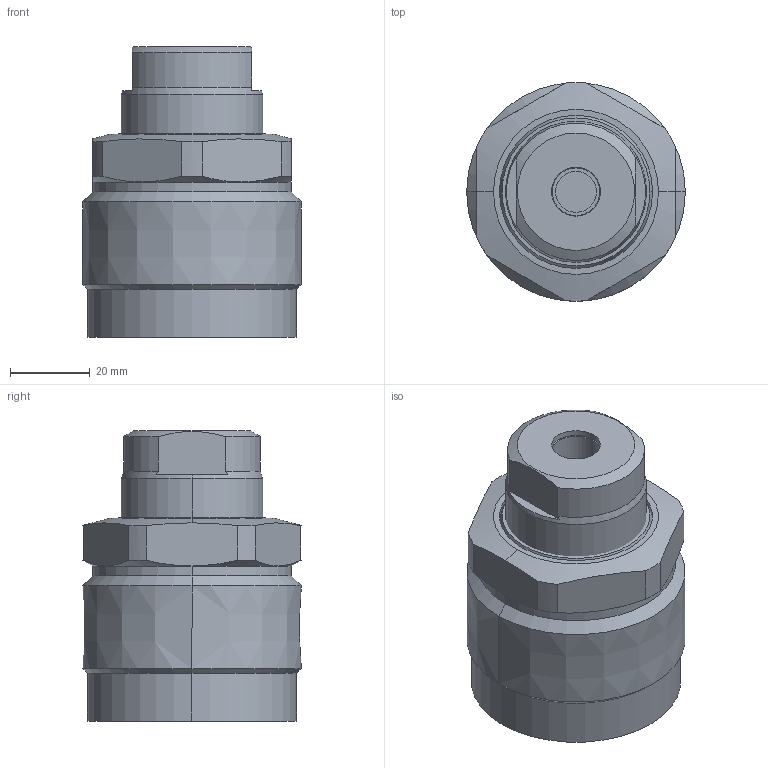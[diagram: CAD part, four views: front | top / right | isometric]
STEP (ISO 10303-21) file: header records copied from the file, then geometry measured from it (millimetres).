
FILE_DESCRIPTION (( 'STEP AP203' ), '1' );
FILE_NAME ('650551-AS.step', '2016-11-02T03:14:58', ( 'wxp' ), ( '' ), 'SwSTEP 2.0', 'SolidWorks 2011', '' );
FILE_SCHEMA (( 'CONFIG_CONTROL_DESIGN' ));
Length unit declared in the file: millimetre
Products named in the file (3): 650551-AS; 葩璃 650551-AS.sldasm-Part-2^650551-AS; 葩璃 650551-AS.sldasm-Part-1^650551-AS
Assembly tree (2 placements, depth 2):
  650551-AS
    葩璃 650551-AS.sldasm-Part-1^650551-AS
    葩璃 650551-AS.sldasm-Part-2^650551-AS
Bounding box: 55 x 55 x 73 mm (x, y, z)
Volume: 132160.9 mm3; surface area: 19553.4 mm2
Topology: 2 solids, 2 shells, 83 faces, 184 edges, 111 vertices
Faces by surface type: cylinder 32, cone 24, plane 21, torus 6
Entity records: 2707 total; most frequent: CARTESIAN_POINT 599, DIRECTION 400, ORIENTED_EDGE 364, EDGE_CURVE 182, AXIS2_PLACEMENT_3D 176, VERTEX_POINT 111, EDGE_LOOP 91, CIRCLE 88
